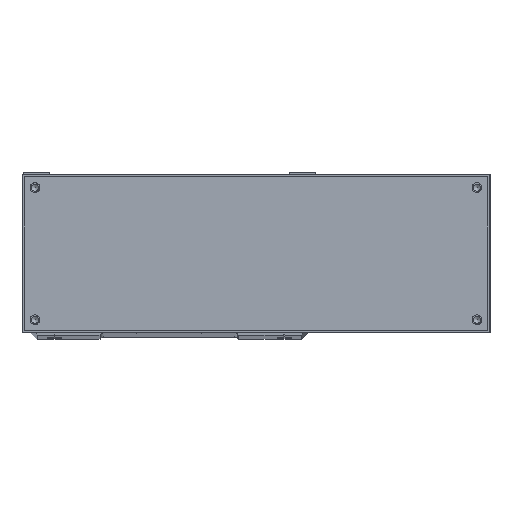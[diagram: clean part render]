
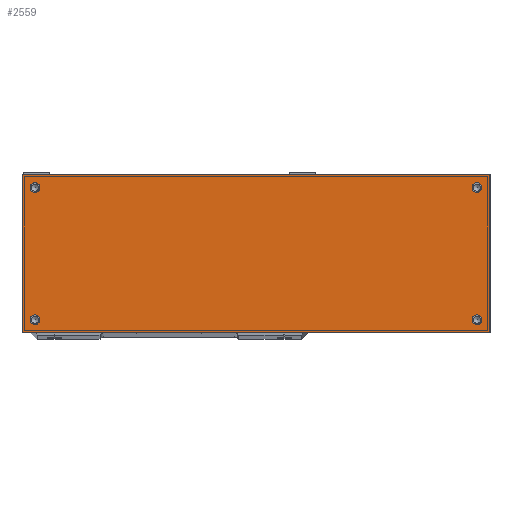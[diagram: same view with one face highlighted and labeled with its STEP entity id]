
A CAD part, top view. The second image highlights one B-rep face of the part: STEP entity #2559.
In plain terms, the highlighted planar face has unit normal (0, 0, 1).
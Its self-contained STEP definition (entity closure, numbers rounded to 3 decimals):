
#316=PLANE('',#16793);
#714=FACE_BOUND('',#4530,.T.);
#715=FACE_BOUND('',#4531,.T.);
#716=FACE_BOUND('',#4532,.T.);
#717=FACE_BOUND('',#4533,.T.);
#718=FACE_BOUND('',#4534,.T.);
#1824=CIRCLE('',#16789,2.25);
#1825=CIRCLE('',#16790,2.25);
#1826=CIRCLE('',#16791,2.25);
#1827=CIRCLE('',#16792,2.25);
#2559=ADVANCED_FACE('8',(#714,#715,#716,#717,#718),#316,.F.);
#4530=EDGE_LOOP('',(#9199));
#4531=EDGE_LOOP('',(#9200));
#4532=EDGE_LOOP('',(#9201));
#4533=EDGE_LOOP('',(#9202));
#4534=EDGE_LOOP('',(#9203,#9204,#9205,#9206));
#6118=LINE('',#25685,#7223);
#6131=LINE('',#25711,#7236);
#6157=LINE('',#26227,#7262);
#6158=LINE('',#26229,#7263);
#7223=VECTOR('',#19604,1.);
#7236=VECTOR('',#19627,1.);
#7262=VECTOR('',#19765,1.);
#7263=VECTOR('',#19766,1.);
#9199=ORIENTED_EDGE('',*,*,#14843,.F.);
#9200=ORIENTED_EDGE('',*,*,#14844,.F.);
#9201=ORIENTED_EDGE('',*,*,#14845,.F.);
#9202=ORIENTED_EDGE('',*,*,#14846,.F.);
#9203=ORIENTED_EDGE('',*,*,#14847,.F.);
#9204=ORIENTED_EDGE('',*,*,#14848,.F.);
#9205=ORIENTED_EDGE('',*,*,#14759,.F.);
#9206=ORIENTED_EDGE('',*,*,#14774,.F.);
#12934=VERTEX_POINT('',#25684);
#12935=VERTEX_POINT('',#25686);
#12942=VERTEX_POINT('',#25710);
#12973=VERTEX_POINT('',#26220);
#12974=VERTEX_POINT('',#26222);
#12975=VERTEX_POINT('',#26224);
#12976=VERTEX_POINT('',#26226);
#12977=VERTEX_POINT('',#26228);
#14759=EDGE_CURVE('',#12934,#12935,#6118,.T.);
#14774=EDGE_CURVE('',#12942,#12934,#6131,.T.);
#14843=EDGE_CURVE('',#12973,#12973,#1824,.T.);
#14844=EDGE_CURVE('',#12974,#12974,#1825,.T.);
#14845=EDGE_CURVE('',#12975,#12975,#1826,.T.);
#14846=EDGE_CURVE('',#12976,#12976,#1827,.T.);
#14847=EDGE_CURVE('',#12977,#12942,#6157,.T.);
#14848=EDGE_CURVE('',#12935,#12977,#6158,.T.);
#16789=AXIS2_PLACEMENT_3D('',#26219,#19757,#19758);
#16790=AXIS2_PLACEMENT_3D('',#26221,#19759,#19760);
#16791=AXIS2_PLACEMENT_3D('',#26223,#19761,#19762);
#16792=AXIS2_PLACEMENT_3D('',#26225,#19763,#19764);
#16793=AXIS2_PLACEMENT_3D('',#26230,#19767,#19768);
#19604=DIRECTION('',(0.,1.,0.));
#19627=DIRECTION('',(-1.,0.,0.));
#19757=DIRECTION('',(0.,0.,1.));
#19758=DIRECTION('',(-1.,0.,0.));
#19759=DIRECTION('',(0.,0.,1.));
#19760=DIRECTION('',(1.,0.,0.));
#19761=DIRECTION('',(0.,0.,1.));
#19762=DIRECTION('',(-1.,0.,0.));
#19763=DIRECTION('',(0.,0.,1.));
#19764=DIRECTION('',(1.,0.,0.));
#19765=DIRECTION('',(0.,-1.,0.));
#19766=DIRECTION('',(1.,0.,0.));
#19767=DIRECTION('',(0.,0.,-1.));
#19768=DIRECTION('',(1.,0.,0.));
#25684=CARTESIAN_POINT('',(-68.,0.,193.));
#25685=CARTESIAN_POINT('',(-68.,73.,193.));
#25686=CARTESIAN_POINT('',(-68.,73.,193.));
#25710=CARTESIAN_POINT('',(148.,0.,193.));
#25711=CARTESIAN_POINT('',(148.,0.,193.));
#26219=CARTESIAN_POINT('',(-62.,6.,193.));
#26220=CARTESIAN_POINT('',(-64.25,6.,193.));
#26221=CARTESIAN_POINT('',(142.,6.,193.));
#26222=CARTESIAN_POINT('',(144.25,6.,193.));
#26223=CARTESIAN_POINT('',(142.,67.,193.));
#26224=CARTESIAN_POINT('',(139.75,67.,193.));
#26225=CARTESIAN_POINT('',(-62.,67.,193.));
#26226=CARTESIAN_POINT('',(-59.75,67.,193.));
#26227=CARTESIAN_POINT('',(148.,73.,193.));
#26228=CARTESIAN_POINT('',(148.,73.,193.));
#26229=CARTESIAN_POINT('',(148.,73.,193.));
#26230=CARTESIAN_POINT('',(40.,36.5,193.));
